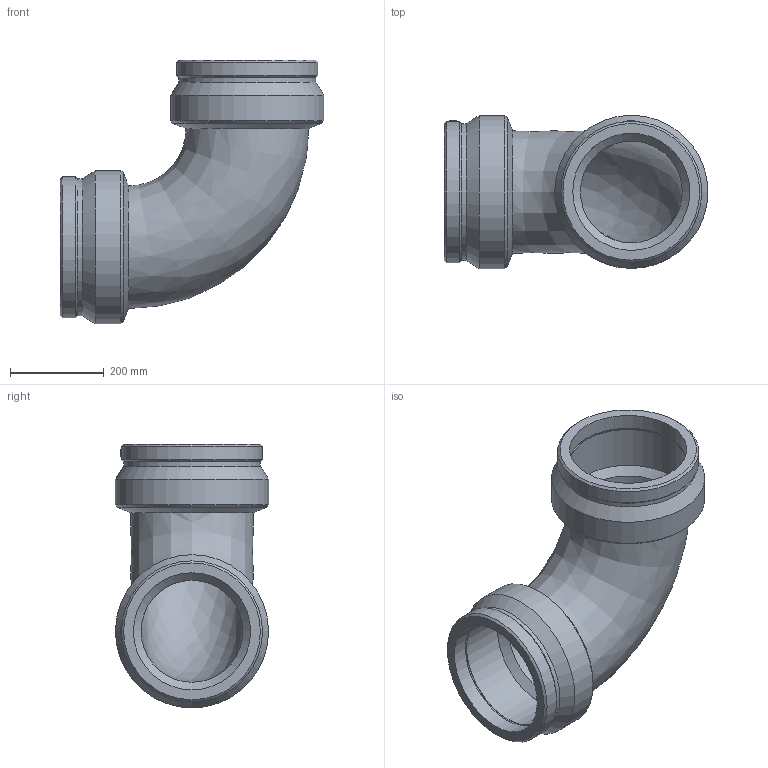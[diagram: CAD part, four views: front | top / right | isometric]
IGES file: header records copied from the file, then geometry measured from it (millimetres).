
Global section: file name: 490504250.ipt; native system: Autodesk Inventor 2015; preprocessor: unknown; author: KIM; date: 20171106.093645; units: millimetre
Bounding box: 563.08 x 327 x 563.08 mm (x, y, z)
Volume: 14784420 mm3; surface area: 1215947.4 mm2
Topology: 1 solids, 1 shells, 42 faces, 98 edges, 64 vertices
Faces by surface type: revolution 12, cone 12, plane 10, cylinder 8
Full cylindrical faces by diameter (mm): 4 x2, 291.815 x2, 300.84 x2, 327 x2
